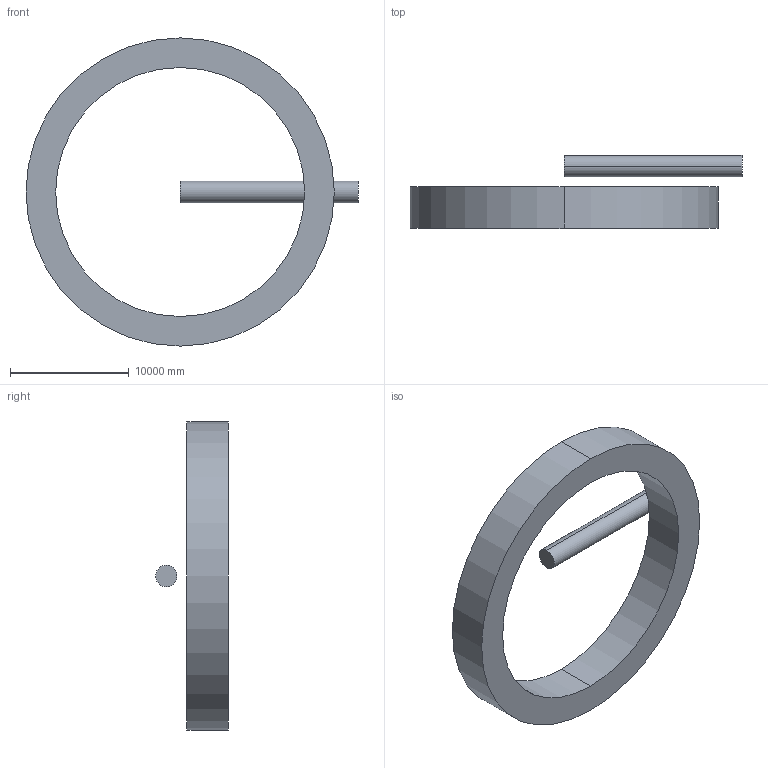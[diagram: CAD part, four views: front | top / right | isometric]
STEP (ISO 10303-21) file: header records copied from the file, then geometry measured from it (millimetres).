
FILE_DESCRIPTION (( 'STEP AP203' ), '1' );
FILE_NAME ('EP_02_Outer_Gimbal_Ring.STEP', '2026-10-28T18:31:25', ( '' ), ( '' ), 'SwSTEP 2.0', 'SolidWorks 2026', '' );
FILE_SCHEMA (( 'CONFIG_CONTROL_DESIGN' ));
Length unit declared in the file: inch
Products named in the file (1): EP_02_Outer_Gimbal_Ring
Bounding box: 28000 x 6150 x 26000 mm (x, y, z)
Volume: 684160340135.5 mm3; surface area: 975841510.1 mm2
Topology: 2 solids, 2 shells, 10 faces, 18 edges, 12 vertices
Faces by surface type: cylinder 6, plane 4
Entity records: 335 total; most frequent: DIRECTION 52, CARTESIAN_POINT 41, ORIENTED_EDGE 36, AXIS2_PLACEMENT_3D 23, EDGE_CURVE 18, VERTEX_POINT 12, EDGE_LOOP 12, CIRCLE 12
